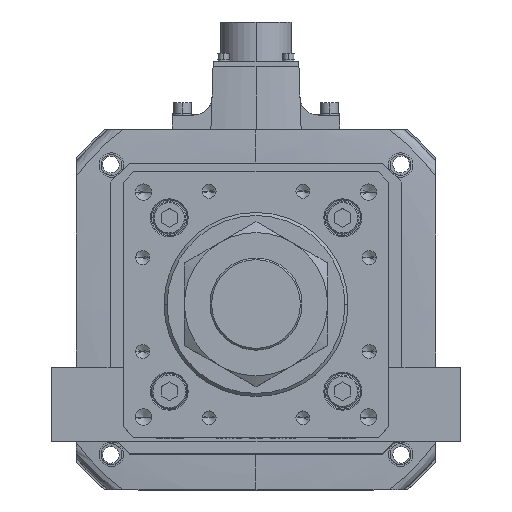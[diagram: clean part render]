
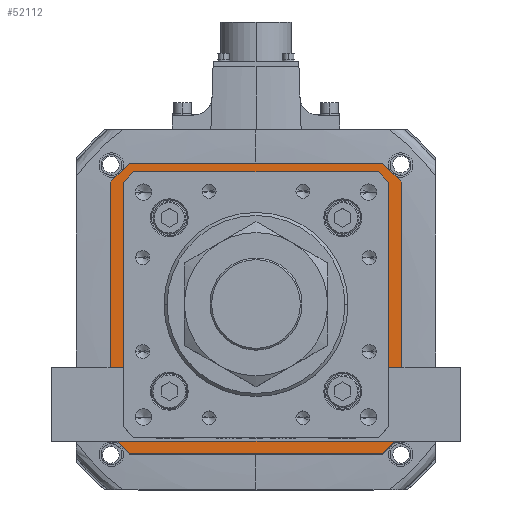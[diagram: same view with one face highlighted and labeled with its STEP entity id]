
A CAD part, top view. The second image highlights one B-rep face of the part: STEP entity #52112.
In plain terms, the highlighted planar face has unit normal (0, 0, 1).
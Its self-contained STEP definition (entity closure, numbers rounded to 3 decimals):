
#418 = CARTESIAN_POINT ( 'NONE',  ( 0., 63., -142. ) ) ;
#912 = EDGE_LOOP ( 'NONE', ( #52349, #45726, #6325, #34338, #37852, #48400, #43734, #27081 ) ) ;
#1047 = CARTESIAN_POINT ( 'NONE',  ( 63., 58.793, -142. ) ) ;
#1709 = VERTEX_POINT ( 'NONE', #11197 ) ;
#1897 = EDGE_CURVE ( 'NONE', #2334, #14711, #20800, .T. ) ;
#2302 = CARTESIAN_POINT ( 'NONE',  ( 0., 0., -142. ) ) ;
#2334 = VERTEX_POINT ( 'NONE', #41146 ) ;
#2586 = VECTOR ( 'NONE', #13402, 1000. ) ;
#2900 = CARTESIAN_POINT ( 'NONE',  ( 58.793, -63., -142. ) ) ;
#3062 = VECTOR ( 'NONE', #45917, 1000. ) ;
#3660 = VECTOR ( 'NONE', #41401, 1000. ) ;
#3710 = DIRECTION ( 'NONE',  ( -0.707, -0.707, 0. ) ) ;
#4858 = LINE ( 'NONE', #6032, #13541 ) ;
#5781 = EDGE_CURVE ( 'NONE', #48180, #19892, #15129, .T. ) ;
#6032 = CARTESIAN_POINT ( 'NONE',  ( -60.896, 60.896, -142. ) ) ;
#6325 = ORIENTED_EDGE ( 'NONE', *, *, #29842, .T. ) ;
#6637 = VECTOR ( 'NONE', #29310, 1000. ) ;
#6643 = DIRECTION ( 'NONE',  ( 0., 0., 1. ) ) ;
#6902 = CARTESIAN_POINT ( 'NONE',  ( 71., 62., -142. ) ) ;
#7226 = LINE ( 'NONE', #24156, #46337 ) ;
#7771 = LINE ( 'NONE', #24211, #3062 ) ;
#8111 = CARTESIAN_POINT ( 'NONE',  ( 71., 62., -142. ) ) ;
#8234 = EDGE_CURVE ( 'NONE', #19892, #49556, #52077, .T. ) ;
#8308 = DIRECTION ( 'NONE',  ( -0.707, 0.707, 0. ) ) ;
#8725 = CARTESIAN_POINT ( 'NONE',  ( 62., 71., -142. ) ) ;
#10747 = ORIENTED_EDGE ( 'NONE', *, *, #51489, .F. ) ;
#11197 = CARTESIAN_POINT ( 'NONE',  ( -63., 58.793, -142. ) ) ;
#11848 = CARTESIAN_POINT ( 'NONE',  ( -58.793, -63., -142. ) ) ;
#11988 = LINE ( 'NONE', #37484, #6637 ) ;
#12527 = AXIS2_PLACEMENT_3D ( 'NONE', #2302, #6643, #37187 ) ;
#12645 = CARTESIAN_POINT ( 'NONE',  ( -60.896, -60.896, -142. ) ) ;
#12890 = VECTOR ( 'NONE', #8308, 1000. ) ;
#12986 = LINE ( 'NONE', #21809, #52113 ) ;
#13175 = VERTEX_POINT ( 'NONE', #30470 ) ;
#13262 = EDGE_CURVE ( 'NONE', #32834, #1709, #49551, .T. ) ;
#13333 = DIRECTION ( 'NONE',  ( 0., 1., 0. ) ) ;
#13402 = DIRECTION ( 'NONE',  ( 1., 0., 0. ) ) ;
#13541 = VECTOR ( 'NONE', #36025, 1000. ) ;
#14711 = VERTEX_POINT ( 'NONE', #45470 ) ;
#14937 = DIRECTION ( 'NONE',  ( -0.707, -0.707, 0. ) ) ;
#15106 = FACE_OUTER_BOUND ( 'NONE', #48429, .T. ) ;
#15129 = LINE ( 'NONE', #24220, #3660 ) ;
#15376 = EDGE_CURVE ( 'NONE', #46278, #44709, #11988, .T. ) ;
#15539 = ORIENTED_EDGE ( 'NONE', *, *, #17056, .F. ) ;
#16148 = CARTESIAN_POINT ( 'NONE',  ( 63., -58.793, -142. ) ) ;
#16351 = CARTESIAN_POINT ( 'NONE',  ( -63., -58.793, -142. ) ) ;
#17056 = EDGE_CURVE ( 'NONE', #44709, #48180, #34122, .T. ) ;
#18159 = EDGE_CURVE ( 'NONE', #13175, #39395, #55649, .T. ) ;
#18494 = VERTEX_POINT ( 'NONE', #2900 ) ;
#19532 = LINE ( 'NONE', #8111, #24937 ) ;
#19892 = VERTEX_POINT ( 'NONE', #8725 ) ;
#20800 = LINE ( 'NONE', #418, #2586 ) ;
#21256 = VECTOR ( 'NONE', #3710, 1000. ) ;
#21289 = LINE ( 'NONE', #49867, #51635 ) ;
#21809 = CARTESIAN_POINT ( 'NONE',  ( 60.896, 60.896, -142. ) ) ;
#22671 = VERTEX_POINT ( 'NONE', #16148 ) ;
#22944 = DIRECTION ( 'NONE',  ( 0.707, -0.707, 0. ) ) ;
#23537 = CARTESIAN_POINT ( 'NONE',  ( -71., 62., -142. ) ) ;
#24156 = CARTESIAN_POINT ( 'NONE',  ( 60.896, -60.896, -142. ) ) ;
#24211 = CARTESIAN_POINT ( 'NONE',  ( 62., -71., -142. ) ) ;
#24220 = CARTESIAN_POINT ( 'NONE',  ( 62., 71., -142. ) ) ;
#24512 = LINE ( 'NONE', #55007, #46126 ) ;
#24937 = VECTOR ( 'NONE', #47305, 1000. ) ;
#26541 = CARTESIAN_POINT ( 'NONE',  ( -62., 71., -142. ) ) ;
#26710 = CARTESIAN_POINT ( 'NONE',  ( -71., -62., -142. ) ) ;
#27081 = ORIENTED_EDGE ( 'NONE', *, *, #53080, .T. ) ;
#27564 = EDGE_CURVE ( 'NONE', #46860, #46278, #24512, .T. ) ;
#28470 = ORIENTED_EDGE ( 'NONE', *, *, #18159, .F. ) ;
#29310 = DIRECTION ( 'NONE',  ( 0., 1., 0. ) ) ;
#29842 = EDGE_CURVE ( 'NONE', #18494, #38832, #50670, .T. ) ;
#30470 = CARTESIAN_POINT ( 'NONE',  ( 71., -62., -142. ) ) ;
#31353 = CARTESIAN_POINT ( 'NONE',  ( -62., -71., -142. ) ) ;
#31792 = VECTOR ( 'NONE', #33191, 1000. ) ;
#32277 = PLANE ( 'NONE',  #12527 ) ;
#32485 = ORIENTED_EDGE ( 'NONE', *, *, #15376, .F. ) ;
#32834 = VERTEX_POINT ( 'NONE', #16351 ) ;
#33075 = ORIENTED_EDGE ( 'NONE', *, *, #5781, .F. ) ;
#33191 = DIRECTION ( 'NONE',  ( -1., 0., 0. ) ) ;
#33539 = DIRECTION ( 'NONE',  ( -0.707, 0.707, 0. ) ) ;
#34122 = LINE ( 'NONE', #42659, #34777 ) ;
#34338 = ORIENTED_EDGE ( 'NONE', *, *, #53952, .T. ) ;
#34777 = VECTOR ( 'NONE', #47001, 1000. ) ;
#35861 = VERTEX_POINT ( 'NONE', #1047 ) ;
#35867 = LINE ( 'NONE', #12645, #12890 ) ;
#36025 = DIRECTION ( 'NONE',  ( 0.707, 0.707, 0. ) ) ;
#36594 = VECTOR ( 'NONE', #22944, 1000. ) ;
#37187 = DIRECTION ( 'NONE',  ( 1., 0., 0. ) ) ;
#37365 = CARTESIAN_POINT ( 'NONE',  ( 0., -63., -142. ) ) ;
#37460 = VECTOR ( 'NONE', #13333, 1000. ) ;
#37484 = CARTESIAN_POINT ( 'NONE',  ( -71., 62., -142. ) ) ;
#37852 = ORIENTED_EDGE ( 'NONE', *, *, #13262, .T. ) ;
#38832 = VERTEX_POINT ( 'NONE', #11848 ) ;
#39395 = VERTEX_POINT ( 'NONE', #50238 ) ;
#39920 = CARTESIAN_POINT ( 'NONE',  ( -63., 0., -142. ) ) ;
#40122 = CARTESIAN_POINT ( 'NONE',  ( 71., 62., -142. ) ) ;
#40477 = DIRECTION ( 'NONE',  ( 0., -1., 0. ) ) ;
#41146 = CARTESIAN_POINT ( 'NONE',  ( -58.793, 63., -142. ) ) ;
#41401 = DIRECTION ( 'NONE',  ( 1., 0., 0. ) ) ;
#42659 = CARTESIAN_POINT ( 'NONE',  ( -62., 71., -142. ) ) ;
#43495 = DIRECTION ( 'NONE',  ( 0.707, -0.707, 0. ) ) ;
#43734 = ORIENTED_EDGE ( 'NONE', *, *, #1897, .T. ) ;
#44709 = VERTEX_POINT ( 'NONE', #23537 ) ;
#45470 = CARTESIAN_POINT ( 'NONE',  ( 58.793, 63., -142. ) ) ;
#45675 = ORIENTED_EDGE ( 'NONE', *, *, #8234, .F. ) ;
#45726 = ORIENTED_EDGE ( 'NONE', *, *, #50353, .T. ) ;
#45917 = DIRECTION ( 'NONE',  ( -1., 0., 0. ) ) ;
#46126 = VECTOR ( 'NONE', #33539, 1000. ) ;
#46173 = FACE_BOUND ( 'NONE', #912, .T. ) ;
#46278 = VERTEX_POINT ( 'NONE', #26710 ) ;
#46337 = VECTOR ( 'NONE', #14937, 1000. ) ;
#46682 = CARTESIAN_POINT ( 'NONE',  ( 71., -62., -142. ) ) ;
#46860 = VERTEX_POINT ( 'NONE', #31353 ) ;
#47001 = DIRECTION ( 'NONE',  ( 0.707, 0.707, 0. ) ) ;
#47305 = DIRECTION ( 'NONE',  ( 0., -1., 0. ) ) ;
#48100 = EDGE_CURVE ( 'NONE', #49556, #13175, #19532, .T. ) ;
#48180 = VERTEX_POINT ( 'NONE', #26541 ) ;
#48400 = ORIENTED_EDGE ( 'NONE', *, *, #54217, .T. ) ;
#48429 = EDGE_LOOP ( 'NONE', ( #33075, #15539, #32485, #48968, #10747, #28470, #49463, #45675 ) ) ;
#48968 = ORIENTED_EDGE ( 'NONE', *, *, #27564, .F. ) ;
#49463 = ORIENTED_EDGE ( 'NONE', *, *, #48100, .F. ) ;
#49551 = LINE ( 'NONE', #39920, #37460 ) ;
#49556 = VERTEX_POINT ( 'NONE', #6902 ) ;
#49867 = CARTESIAN_POINT ( 'NONE',  ( 63., 0., -142. ) ) ;
#50238 = CARTESIAN_POINT ( 'NONE',  ( 62., -71., -142. ) ) ;
#50353 = EDGE_CURVE ( 'NONE', #22671, #18494, #7226, .T. ) ;
#50670 = LINE ( 'NONE', #37365, #31792 ) ;
#51363 = EDGE_CURVE ( 'NONE', #35861, #22671, #21289, .T. ) ;
#51489 = EDGE_CURVE ( 'NONE', #39395, #46860, #7771, .T. ) ;
#51635 = VECTOR ( 'NONE', #40477, 1000. ) ;
#52077 = LINE ( 'NONE', #40122, #36594 ) ;
#52112 = ADVANCED_FACE ( 'NONE', ( #46173, #15106 ), #32277, .T. ) ;
#52113 = VECTOR ( 'NONE', #43495, 1000. ) ;
#52349 = ORIENTED_EDGE ( 'NONE', *, *, #51363, .T. ) ;
#53080 = EDGE_CURVE ( 'NONE', #14711, #35861, #12986, .T. ) ;
#53952 = EDGE_CURVE ( 'NONE', #38832, #32834, #35867, .T. ) ;
#54217 = EDGE_CURVE ( 'NONE', #1709, #2334, #4858, .T. ) ;
#55007 = CARTESIAN_POINT ( 'NONE',  ( -62., -71., -142. ) ) ;
#55649 = LINE ( 'NONE', #46682, #21256 ) ;
